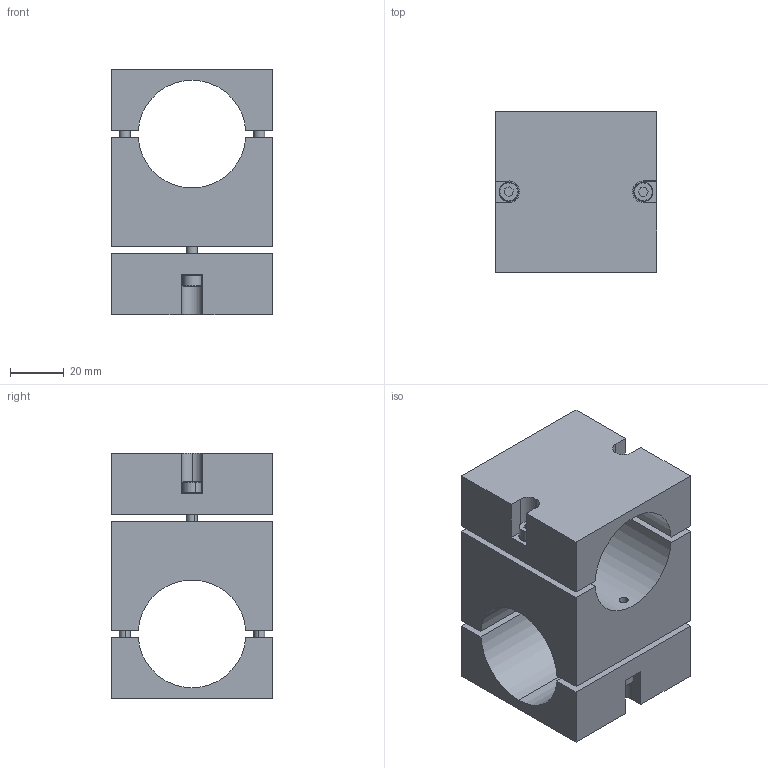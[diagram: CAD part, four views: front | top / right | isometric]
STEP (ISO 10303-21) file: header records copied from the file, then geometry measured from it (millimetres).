
FILE_DESCRIPTION (( 'STEP AP214' ), '1' );
FILE_NAME ('SMBT2-4040T.STEP', '2023-01-04T01:37:31', ( 'Windows User' ), ( 'P R C' ), 'SwSTEP 2.0', 'SolidWorks 2018', '' );
FILE_SCHEMA (( 'AUTOMOTIVE_DESIGN' ));
Length unit declared in the file: millimetre
Products named in the file (4): PTC-M4L18; PTS-M4; SMBT2-4040; SMBT2-4040T
Assembly tree (9 placements, depth 2):
  SMBT2-4040T
    SMBT2-4040
    PTC-M4L18  x4
    PTS-M4  x4
Bounding box: 60 x 60 x 91 mm (x, y, z)
Volume: 167044.8 mm3; surface area: 46467.2 mm2
Topology: 11 solids, 11 shells, 815 faces, 2340 edges, 1547 vertices
Faces by surface type: plane 720, cylinder 58, cone 37
Entity records: 9049 total; most frequent: CARTESIAN_POINT 1720, DIRECTION 1517, ORIENTED_EDGE 1476, EDGE_CURVE 738, AXIS2_PLACEMENT_3D 514, VECTOR 489, LINE 489, VERTEX_POINT 485
